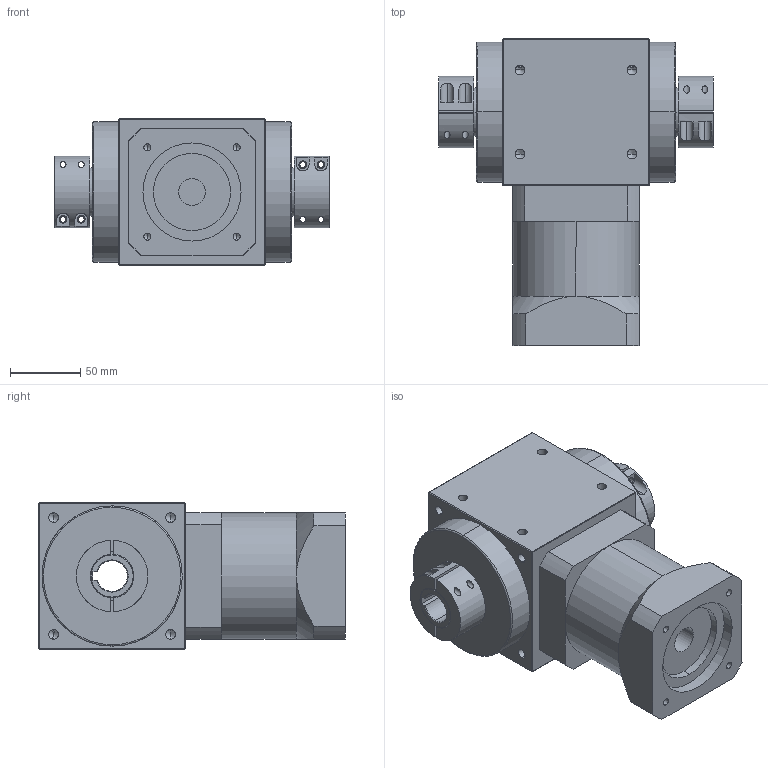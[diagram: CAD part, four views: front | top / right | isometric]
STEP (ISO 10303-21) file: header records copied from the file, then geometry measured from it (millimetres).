
FILE_DESCRIPTION (( 'STEP AP214' ), '1' );
FILE_NAME ('PAW105A-L1-2C-K(3-10) 19-70-90-M6.STEP', '2021-04-24T08:03:58', ( 'Microsoft' ), ( 'Microsoft China' ), 'SwSTEP 2.0', 'SolidWorks 2016', '' );
FILE_SCHEMA (( 'AUTOMOTIVE_DESIGN' ));
Length unit declared in the file: millimetre
Products named in the file (3): PAW105A-L1-2C-K(3-10) 19-70-90-M6; PAW105A-L1-2C-K--22-110-145-m8_1; 105標杶_1
Assembly tree (3 placements, depth 2):
  PAW105A-L1-2C-K(3-10) 19-70-90-M6
    PAW105A-L1-2C-K--22-110-145-m8_1
    105標杶_1  x2
Bounding box: 196 x 219 x 105 mm (x, y, z)
Volume: 2208932.4 mm3; surface area: 186814.1 mm2
Topology: 6 solids, 6 shells, 293 faces, 719 edges, 424 vertices
Faces by surface type: cylinder 137, plane 93, cone 59, bspline 4
Entity records: 10184 total; most frequent: CARTESIAN_POINT 1770, DIRECTION 1221, ORIENTED_EDGE 1102, EDGE_CURVE 551, AXIS2_PLACEMENT_3D 475, VERTEX_POINT 344, EDGE_LOOP 301, LINE 271
